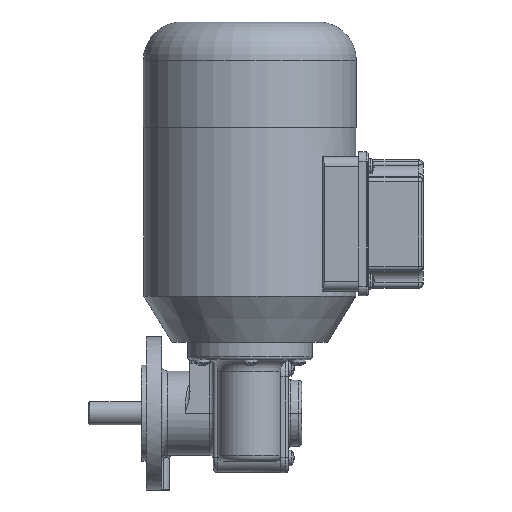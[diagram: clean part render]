
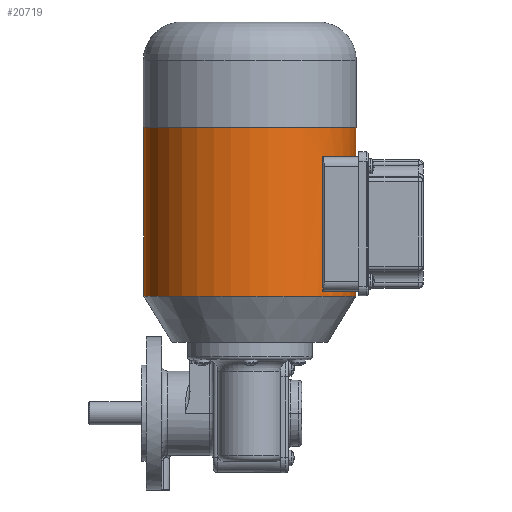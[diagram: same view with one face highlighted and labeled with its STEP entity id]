
A CAD part, front view. The second image highlights one B-rep face of the part: STEP entity #20719.
In plain terms, the highlighted cylindrical face has radius 55.25 mm (diameter 110.5 mm), a partial arc.
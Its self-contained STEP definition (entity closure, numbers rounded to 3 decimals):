
#78 = EDGE_LOOP ( 'NONE', ( #7296, #19524, #521, #6552, #8193, #18605, #25497, #11961 ) ) ;
#233 = CARTESIAN_POINT ( 'NONE',  ( 0., 0., 55.25 ) ) ;
#521 = ORIENTED_EDGE ( 'NONE', *, *, #13991, .F. ) ;
#1237 = VERTEX_POINT ( 'NONE', #20567 ) ;
#1282 = FACE_OUTER_BOUND ( 'NONE', #78, .T. ) ;
#1669 = CARTESIAN_POINT ( 'NONE',  ( 0., 0., -55.25 ) ) ;
#1842 = DIRECTION ( 'NONE',  ( 0., 1., 0. ) ) ;
#2013 = DIRECTION ( 'NONE',  ( -1., 0., 0. ) ) ;
#2167 = LINE ( 'NONE', #233, #5193 ) ;
#2183 = DIRECTION ( 'NONE',  ( 0., 0., 1. ) ) ;
#2203 = CIRCLE ( 'NONE', #25755, 55.25 ) ;
#3494 = CARTESIAN_POINT ( 'NONE',  ( 0., 0., 0. ) ) ;
#3602 = DIRECTION ( 'NONE',  ( -1., 0., 0. ) ) ;
#3895 = DIRECTION ( 'NONE',  ( 0., -1., 0. ) ) ;
#3936 = CARTESIAN_POINT ( 'NONE',  ( 0., 0., -55.25 ) ) ;
#5193 = VECTOR ( 'NONE', #16931, 1000. ) ;
#5477 = CIRCLE ( 'NONE', #18674, 55.25 ) ;
#6522 = DIRECTION ( 'NONE',  ( 0., 0., 1. ) ) ;
#6552 = ORIENTED_EDGE ( 'NONE', *, *, #26624, .F. ) ;
#7296 = ORIENTED_EDGE ( 'NONE', *, *, #24576, .T. ) ;
#7926 = CYLINDRICAL_SURFACE ( 'NONE', #11438, 55.25 ) ;
#8106 = VECTOR ( 'NONE', #25952, 1000. ) ;
#8193 = ORIENTED_EDGE ( 'NONE', *, *, #21431, .F. ) ;
#8611 = CARTESIAN_POINT ( 'NONE',  ( 55., 0., 0. ) ) ;
#9538 = CARTESIAN_POINT ( 'NONE',  ( 70.25, 0., -55.25 ) ) ;
#10050 = CARTESIAN_POINT ( 'NONE',  ( 143., 0., -55.25 ) ) ;
#10472 = LINE ( 'NONE', #3936, #15505 ) ;
#10903 = CARTESIAN_POINT ( 'NONE',  ( 58.337, 40.022, -38.089 ) ) ;
#11324 = VERTEX_POINT ( 'NONE', #10050 ) ;
#11438 = AXIS2_PLACEMENT_3D ( 'NONE', #3494, #26625, #24941 ) ;
#11606 = CARTESIAN_POINT ( 'NONE',  ( 70.25, 40.022, -38.089 ) ) ;
#11685 = CARTESIAN_POINT ( 'NONE',  ( 55., 0., 55.25 ) ) ;
#11825 = EDGE_CURVE ( 'NONE', #26002, #20644, #5477, .T. ) ;
#11961 = ORIENTED_EDGE ( 'NONE', *, *, #20069, .F. ) ;
#12080 = VERTEX_POINT ( 'NONE', #9538 ) ;
#13213 = EDGE_CURVE ( 'NONE', #11324, #19470, #24909, .T. ) ;
#13465 = AXIS2_PLACEMENT_3D ( 'NONE', #25572, #16949, #2183 ) ;
#13603 = VERTEX_POINT ( 'NONE', #21582 ) ;
#13991 = EDGE_CURVE ( 'NONE', #1237, #19470, #2203, .T. ) ;
#14238 = DIRECTION ( 'NONE',  ( 1., 0., 0. ) ) ;
#14497 = CARTESIAN_POINT ( 'NONE',  ( 140.25, 0., 0. ) ) ;
#15505 = VECTOR ( 'NONE', #2013, 1000. ) ;
#16013 = VECTOR ( 'NONE', #3602, 1000. ) ;
#16931 = DIRECTION ( 'NONE',  ( -1., 0., 0. ) ) ;
#16949 = DIRECTION ( 'NONE',  ( -1., 0., 0. ) ) ;
#17196 = LINE ( 'NONE', #10903, #8106 ) ;
#18140 = CARTESIAN_POINT ( 'NONE',  ( 55., 0., -55.25 ) ) ;
#18605 = ORIENTED_EDGE ( 'NONE', *, *, #21108, .T. ) ;
#18674 = AXIS2_PLACEMENT_3D ( 'NONE', #8611, #19096, #6522 ) ;
#19080 = AXIS2_PLACEMENT_3D ( 'NONE', #24813, #14238, #1842 ) ;
#19096 = DIRECTION ( 'NONE',  ( -1., 0., 0. ) ) ;
#19470 = VERTEX_POINT ( 'NONE', #27441 ) ;
#19524 = ORIENTED_EDGE ( 'NONE', *, *, #13213, .T. ) ;
#20069 = EDGE_CURVE ( 'NONE', #13603, #26002, #2167, .T. ) ;
#20265 = DIRECTION ( 'NONE',  ( -1., 0., 0. ) ) ;
#20567 = CARTESIAN_POINT ( 'NONE',  ( 140.25, 40.022, -38.089 ) ) ;
#20644 = VERTEX_POINT ( 'NONE', #18140 ) ;
#20719 = ADVANCED_FACE ( 'NONE', ( #1282 ), #7926, .T. ) ;
#21108 = EDGE_CURVE ( 'NONE', #12080, #20644, #10472, .T. ) ;
#21431 = EDGE_CURVE ( 'NONE', #12080, #25368, #23965, .T. ) ;
#21582 = CARTESIAN_POINT ( 'NONE',  ( 143., 0., 55.25 ) ) ;
#23965 = CIRCLE ( 'NONE', #19080, 55.25 ) ;
#24576 = EDGE_CURVE ( 'NONE', #13603, #11324, #25013, .T. ) ;
#24813 = CARTESIAN_POINT ( 'NONE',  ( 70.25, 0., 0. ) ) ;
#24909 = LINE ( 'NONE', #1669, #16013 ) ;
#24941 = DIRECTION ( 'NONE',  ( 0., 0., 1. ) ) ;
#25013 = CIRCLE ( 'NONE', #13465, 55.25 ) ;
#25368 = VERTEX_POINT ( 'NONE', #11606 ) ;
#25497 = ORIENTED_EDGE ( 'NONE', *, *, #11825, .F. ) ;
#25572 = CARTESIAN_POINT ( 'NONE',  ( 143., 0., 0. ) ) ;
#25755 = AXIS2_PLACEMENT_3D ( 'NONE', #14497, #20265, #3895 ) ;
#25952 = DIRECTION ( 'NONE',  ( 1., 0., 0. ) ) ;
#26002 = VERTEX_POINT ( 'NONE', #11685 ) ;
#26624 = EDGE_CURVE ( 'NONE', #25368, #1237, #17196, .T. ) ;
#26625 = DIRECTION ( 'NONE',  ( -1., 0., 0. ) ) ;
#27441 = CARTESIAN_POINT ( 'NONE',  ( 140.25, 0., -55.25 ) ) ;
